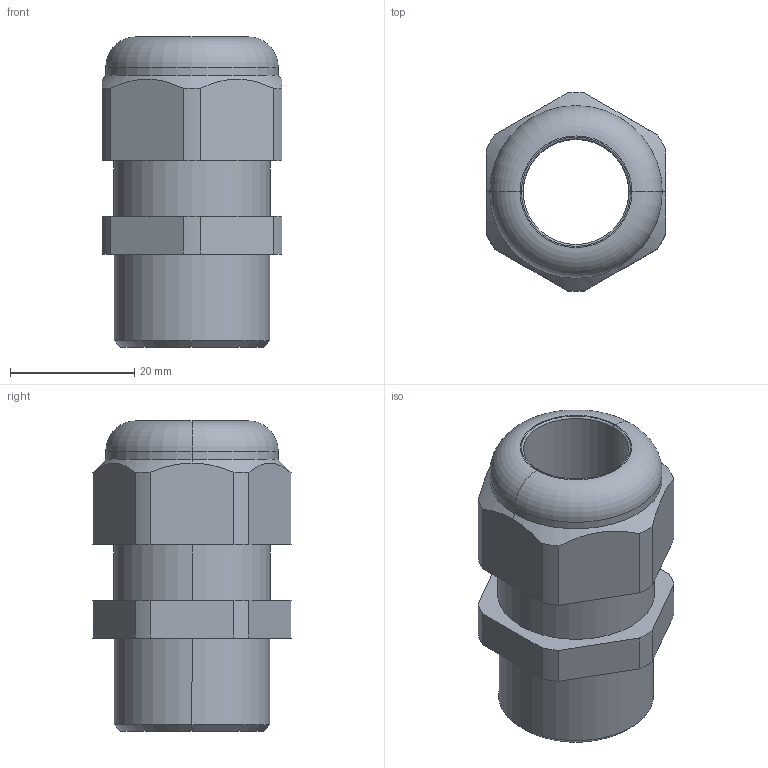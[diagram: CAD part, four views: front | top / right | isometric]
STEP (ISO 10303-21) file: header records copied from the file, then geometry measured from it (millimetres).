
FILE_DESCRIPTION (( 'STEP AP203' ), '1' );
FILE_NAME ('50.625 PA7001L.STEP', '2005-09-19T09:52:53', ( ' ' ), ( '' ), 'SwSTEP 2.0', 'SolidWorks 2005143', '' );
FILE_SCHEMA (( 'CONFIG_CONTROL_DESIGN' ));
Length unit declared in the file: millimetre
Products named in the file (1): 50.625 PA7001L
Bounding box: 29 x 31.99 x 50 mm (x, y, z)
Volume: 18064.6 mm3; surface area: 8155.3 mm2
Topology: 1 solids, 1 shells, 82 faces, 214 edges, 140 vertices
Faces by surface type: plane 54, cylinder 20, cone 4, torus 4
Entity records: 2653 total; most frequent: CARTESIAN_POINT 521, ORIENTED_EDGE 428, DIRECTION 422, EDGE_CURVE 214, VECTOR 156, LINE 156, VERTEX_POINT 140, AXIS2_PLACEMENT_3D 133
